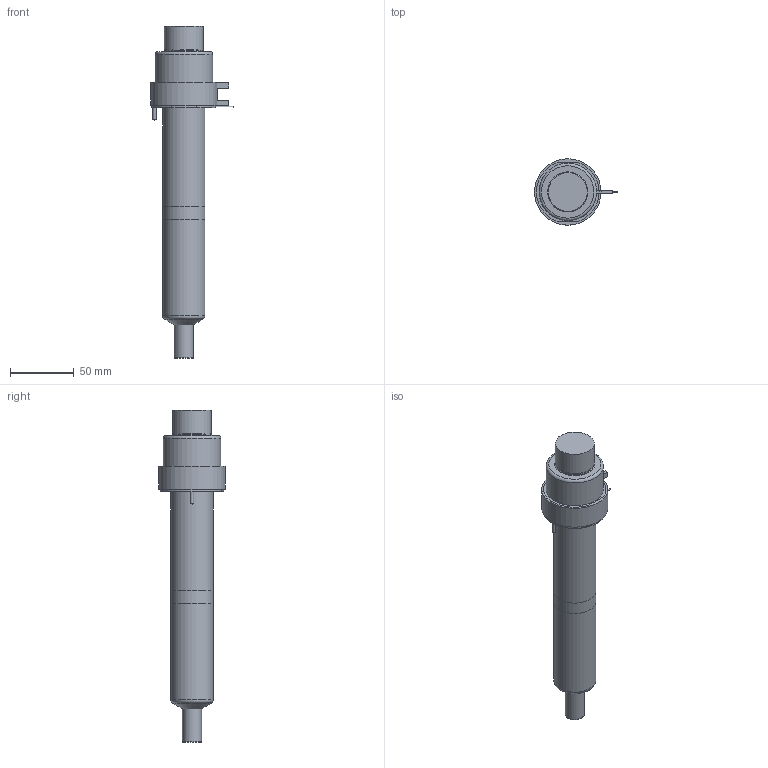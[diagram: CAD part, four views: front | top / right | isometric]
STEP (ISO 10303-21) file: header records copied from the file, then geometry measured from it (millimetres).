
FILE_DESCRIPTION(/* description */ (''),/* implementation_level */ '2;1');
FILE_NAME(/* name */ 'SXYCN19175P7U_250C_a',/* time_stamp */ '2016-03-07T10:28:54+13:00',/* author */ (''),/* organization */ (''),/* preprocessor_version */ 'ST-DEVELOPER v9',/* originating_system */ 'UGS - NX 4.0',/* authorisation */ '');
FILE_SCHEMA (('CONFIG_CONTROL_DESIGN'));
Length unit declared in the file: millimetre
Products named in the file (1): Matt0C2Fmybn
Bounding box: 64.85 x 52 x 259.86 mm (x, y, z)
Volume: 424858.8 mm3; surface area: 62331.6 mm2
Topology: 7 solids, 7 shells, 91 faces, 175 edges, 112 vertices
Faces by surface type: plane 45, cylinder 29, torus 8, cone 7, bspline 1, sphere 1
Full cylindrical faces by diameter (mm): 1 x3, 1.8 x1, 2.5 x2, 7 x1, 8 x1, 14.61 x1, 14.995 x2, 18.3 x1, 28.6 x1, 30 x1, 30.4 x1, 33 x2, 38.1 x1, 45 x1, 50 x1, 52 x1
Entity records: 2230 total; most frequent: CARTESIAN_POINT 435, DIRECTION 378, ORIENTED_EDGE 266, AXIS2_PLACEMENT_3D 164, EDGE_LOOP 140, EDGE_CURVE 133, VERTEX_POINT 106, ADVANCED_FACE 91
